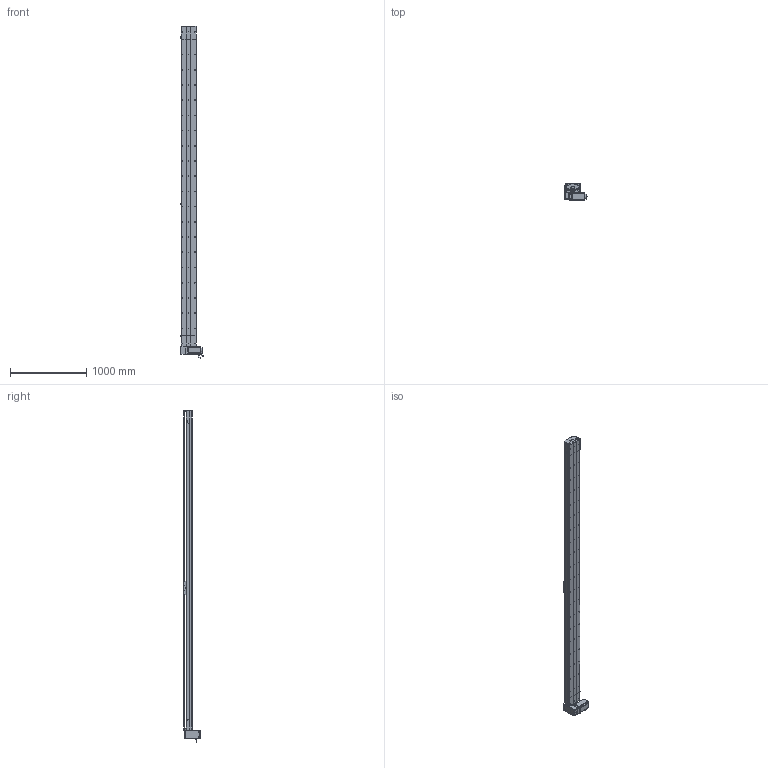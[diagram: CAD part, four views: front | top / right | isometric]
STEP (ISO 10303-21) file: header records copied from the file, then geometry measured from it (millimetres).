
FILE_DESCRIPTION (( 'STEP AP214' ), '1' );
FILE_NAME ('D20 TBH RU S3900.STEP', '2010-07-01T09:11:35', ( 'Conseil Régional Haute-Normandie' ), ( 'Conseil Régional Haute-Normandie' ), 'SwSTEP 2.0', 'SolidWorks 2010', '' );
FILE_SCHEMA (( 'AUTOMOTIVE_DESIGN' ));
Length unit declared in the file: millimetre
Products named in the file (40): tete d''axe poulie D20B; vis M5 L8 90°_Default; poulie tail D20_Default; D20 TBH RU S3900; tail D20+100_Default; corpl tail D20 +100_Default; Couroie tail D20_Default; rail + couroie  D20 S3900; plaque de  bout tail D20_Default; Course B L3900_Default; corp D20 S3900_Default; couvercle tail D20_Default; vis M8 L12_Default; couvercle D20 S3900_Default; guide D20B; Chariot D20B; chariot D20B_Default; couvercle head D20_Default; rail head D20; corpl head D20_Default; head RU_Default; plaque de  bout head D20B RU_Default; poulie head D20_Default; vis M5 L5_Default; couroie_Default; vis M5 L12_Default; cache D20_Default; cache arbre D20_Default; vis M5 L70_Default; clavette; Plaque racord D20LH_Default; Renvoi RU D20_Default; corps 110BLDC170A-630x; avant 110BLDC170A-630x; Moteur motionking 110BLDC170A-640x; Conecteur_Default; Conecteur2_Default; codeur 110BLDC170A-630x; rail tail D20; vis M5 L25_Default
Assembly tree (71 placements, depth 4):
  D20 TBH RU S3900
    chariot D20B_Default
      Chariot D20B
      vis M5 L12_Default  x4
      guide D20B  x2
    head RU_Default
      vis M5 L5_Default  x4
      vis M5 L70_Default  x4
      poulie head D20_Default
      vis M5 L25_Default  x2
      cache arbre D20_Default
      vis M8 L12_Default  x4
      cache D20_Default  x2
      Moteur motionking 110BLDC170A-640x
        codeur 110BLDC170A-630x
        Conecteur_Default
        corps 110BLDC170A-630x
        avant 110BLDC170A-630x
        clavette
        Conecteur2_Default
      plaque de  bout head D20B RU_Default
      rail head D20
      couvercle head D20_Default
      vis M5 L12_Default  x10
      Plaque racord D20LH_Default
      corpl head D20_Default
      couroie_Default
      Renvoi RU D20_Default
    Course B L3900_Default
      couvercle D20 S3900_Default
      rail + couroie  D20 S3900
      corp D20 S3900_Default
    tail D20+100_Default
      corpl tail D20 +100_Default
      Couroie tail D20_Default
      vis M5 L12_Default  x4
      vis M5 L25_Default  x2
      vis M5 L8 90°_Default  x2
      tete d''axe poulie D20B
      plaque de  bout tail D20_Default
      poulie tail D20_Default
      rail tail D20
      couvercle tail D20_Default
Bounding box: 304.2 x 223.2 x 4365 mm (x, y, z)
Volume: 33225380 mm3; surface area: 8297507.4 mm2
Topology: 95 solids, 95 shells, 2952 faces, 7692 edges, 4979 vertices
Faces by surface type: plane 1663, cylinder 965, bspline 136, cone 99, torus 89
Entity records: 97573 total; most frequent: CARTESIAN_POINT 32107, ORIENTED_EDGE 12040, DIRECTION 11241, EDGE_CURVE 6020, VERTEX_POINT 3965, AXIS2_PLACEMENT_3D 3751, VECTOR 3739, LINE 3739
